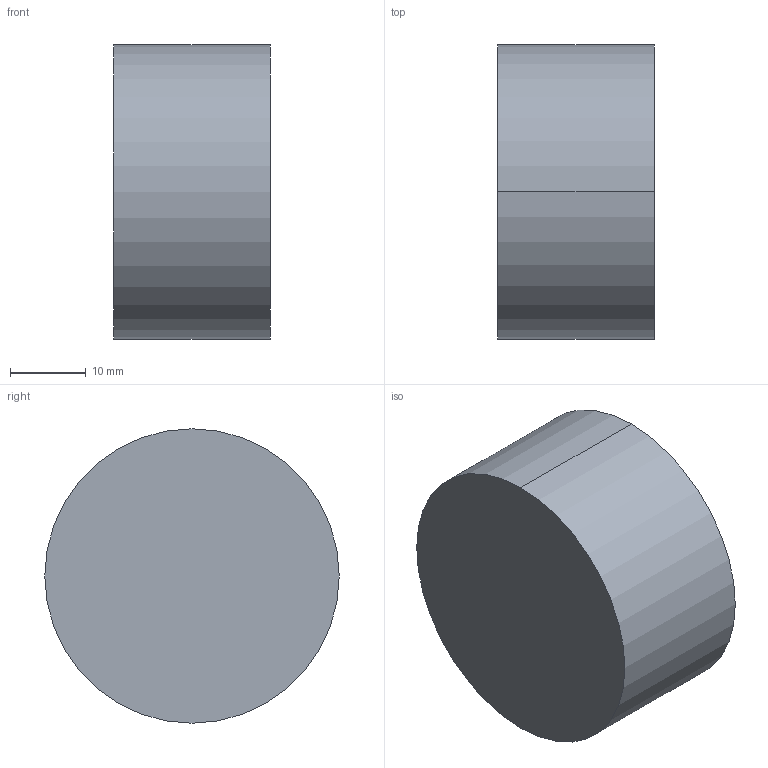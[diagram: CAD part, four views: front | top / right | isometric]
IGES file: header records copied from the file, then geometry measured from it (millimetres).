
Start section: SolidWorks IGES file using analytic representation for surfaces
Global section: file name: S:\Product Visuals\Pumps to be Defeatured\140 fittings\FITTING ASSEMBLIES\DEFEATURED\front-check-plug.IGS; native system: SolidWorks 2012; preprocessor: SolidWorks 2012; author: Rachel.Dressel; date: 121227.111825; units: inch
Bounding box: 20.57 x 38.79 x 38.79 mm (x, y, z)
Volume: 23982 mm3; surface area: 5265.2 mm2
Topology: 1 solids, 1 shells, 16 faces, 30 edges, 20 vertices
Faces by surface type: revolution 10, plane 6
